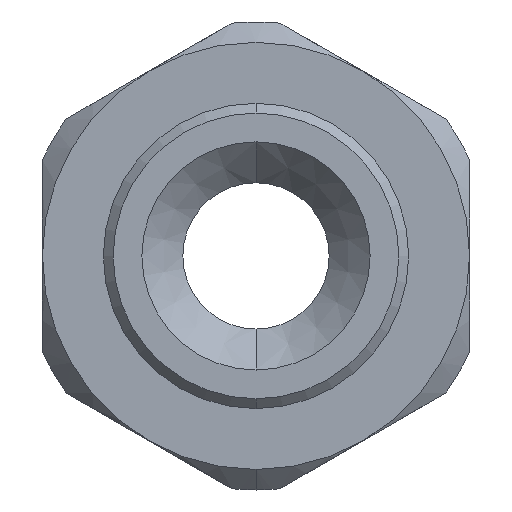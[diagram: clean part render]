
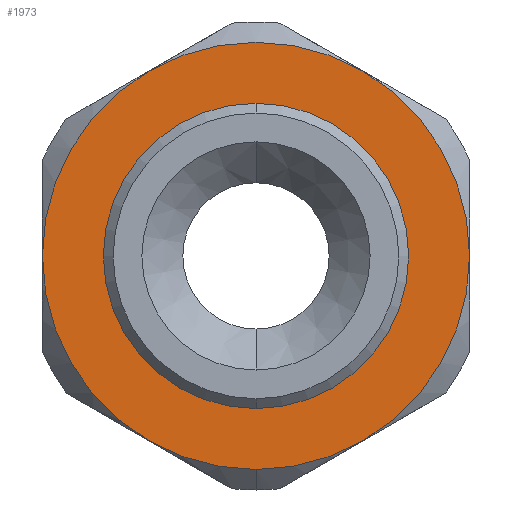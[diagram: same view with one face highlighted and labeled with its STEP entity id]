
A CAD part, front view. The second image highlights one B-rep face of the part: STEP entity #1973.
In plain terms, the highlighted planar face has unit normal (0, -1, 0).
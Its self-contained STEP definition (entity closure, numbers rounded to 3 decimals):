
#122 = VERTEX_POINT ( 'NONE', #1041 ) ;
#178 = VERTEX_POINT ( 'NONE', #1877 ) ;
#180 = VERTEX_POINT ( 'NONE', #1875 ) ;
#182 = VERTEX_POINT ( 'NONE', #1873 ) ;
#216 = VERTEX_POINT ( 'NONE', #1850 ) ;
#230 = VERTEX_POINT ( 'NONE', #1845 ) ;
#248 = VERTEX_POINT ( 'NONE', #1832 ) ;
#265 = VERTEX_POINT ( 'NONE', #1819 ) ;
#316 = VERTEX_POINT ( 'NONE', #1801 ) ;
#444 = AXIS2_PLACEMENT_3D ( 'NONE', #2412, #2363, #2389 ) ;
#445 = AXIS2_PLACEMENT_3D ( 'NONE', #2405, #2441, #2371 ) ;
#448 = AXIS2_PLACEMENT_3D ( 'NONE', #2324, #2384, #2396 ) ;
#462 = AXIS2_PLACEMENT_3D ( 'NONE', #789, #782, #781 ) ;
#471 = AXIS2_PLACEMENT_3D ( 'NONE', #860, #856, #855 ) ;
#472 = AXIS2_PLACEMENT_3D ( 'NONE', #854, #850, #849 ) ;
#479 = AXIS2_PLACEMENT_3D ( 'NONE', #869, #865, #864 ) ;
#544 = AXIS2_PLACEMENT_3D ( 'NONE', #1276, #1275, #1274 ) ;
#547 = AXIS2_PLACEMENT_3D ( 'NONE', #1342, #1335, #1334 ) ;
#618 = AXIS2_PLACEMENT_3D ( 'NONE', #1562, #1561, #1560 ) ;
#647 = FACE_BOUND ( 'NONE', #735, .T. ) ;
#649 = FACE_OUTER_BOUND ( 'NONE', #733, .T. ) ;
#733 = EDGE_LOOP ( 'NONE', ( #977, #981, #978, #979, #980, #984, #982 ) ) ;
#735 = EDGE_LOOP ( 'NONE', ( #975, #976 ) ) ;
#781 = DIRECTION ( 'NONE',  ( 0., 0., -1. ) ) ;
#782 = DIRECTION ( 'NONE',  ( 0., -1., 0. ) ) ;
#789 = CARTESIAN_POINT ( 'NONE',  ( 0., 1., 0. ) ) ;
#849 = DIRECTION ( 'NONE',  ( 0., 0., -1. ) ) ;
#850 = DIRECTION ( 'NONE',  ( 0., -1., 0. ) ) ;
#854 = CARTESIAN_POINT ( 'NONE',  ( 0., 1., 0. ) ) ;
#855 = DIRECTION ( 'NONE',  ( 0., 0., -1. ) ) ;
#856 = DIRECTION ( 'NONE',  ( 0., -1., 0. ) ) ;
#860 = CARTESIAN_POINT ( 'NONE',  ( 0., 1., 0. ) ) ;
#864 = DIRECTION ( 'NONE',  ( 0., 0., -1. ) ) ;
#865 = DIRECTION ( 'NONE',  ( 0., -1., 0. ) ) ;
#869 = CARTESIAN_POINT ( 'NONE',  ( 0., 1., 0. ) ) ;
#975 = ORIENTED_EDGE ( 'NONE', *, *, #2046, .F. ) ;
#976 = ORIENTED_EDGE ( 'NONE', *, *, #2193, .F. ) ;
#977 = ORIENTED_EDGE ( 'NONE', *, *, #2191, .T. ) ;
#978 = ORIENTED_EDGE ( 'NONE', *, *, #2167, .T. ) ;
#979 = ORIENTED_EDGE ( 'NONE', *, *, #2178, .T. ) ;
#980 = ORIENTED_EDGE ( 'NONE', *, *, #2169, .T. ) ;
#981 = ORIENTED_EDGE ( 'NONE', *, *, #2194, .T. ) ;
#982 = ORIENTED_EDGE ( 'NONE', *, *, #2164, .T. ) ;
#984 = ORIENTED_EDGE ( 'NONE', *, *, #2058, .T. ) ;
#1041 = CARTESIAN_POINT ( 'NONE',  ( 0., 1., -10.95 ) ) ;
#1274 = DIRECTION ( 'NONE',  ( 0., 0., -1. ) ) ;
#1275 = DIRECTION ( 'NONE',  ( 0., -1., 0. ) ) ;
#1276 = CARTESIAN_POINT ( 'NONE',  ( 0., 1., 0. ) ) ;
#1334 = DIRECTION ( 'NONE',  ( 0., 0., -1. ) ) ;
#1335 = DIRECTION ( 'NONE',  ( 0., -1., 0. ) ) ;
#1342 = CARTESIAN_POINT ( 'NONE',  ( 0., 1., 0. ) ) ;
#1560 = DIRECTION ( 'NONE',  ( 0., 0., 1. ) ) ;
#1561 = DIRECTION ( 'NONE',  ( 0., 1., 0. ) ) ;
#1562 = CARTESIAN_POINT ( 'NONE',  ( -12., 1., 0. ) ) ;
#1563 = PLANE ( 'NONE',  #618 ) ;
#1801 = CARTESIAN_POINT ( 'NONE',  ( 5.475, 1., 9.483 ) ) ;
#1819 = CARTESIAN_POINT ( 'NONE',  ( 5.475, 1., -9.483 ) ) ;
#1832 = CARTESIAN_POINT ( 'NONE',  ( -5.475, 1., 9.483 ) ) ;
#1845 = CARTESIAN_POINT ( 'NONE',  ( -5.475, 1., -9.483 ) ) ;
#1850 = CARTESIAN_POINT ( 'NONE',  ( 10.95, 1., 0. ) ) ;
#1873 = CARTESIAN_POINT ( 'NONE',  ( 0., 1., 7.825 ) ) ;
#1875 = CARTESIAN_POINT ( 'NONE',  ( 0., 1., -7.825 ) ) ;
#1877 = CARTESIAN_POINT ( 'NONE',  ( -10.95, 1., 0. ) ) ;
#1973 = ADVANCED_FACE ( 'NONE', ( #647, #649 ), #1563, .F. ) ;
#2046 = EDGE_CURVE ( 'NONE', #180, #182, #2112, .T. ) ;
#2058 = EDGE_CURVE ( 'NONE', #122, #265, #2114, .T. ) ;
#2103 = CIRCLE ( 'NONE', #479, 10.95 ) ;
#2112 = CIRCLE ( 'NONE', #547, 7.825 ) ;
#2114 = CIRCLE ( 'NONE', #544, 10.95 ) ;
#2127 = CIRCLE ( 'NONE', #462, 10.95 ) ;
#2135 = CIRCLE ( 'NONE', #471, 10.95 ) ;
#2143 = CIRCLE ( 'NONE', #472, 10.95 ) ;
#2164 = EDGE_CURVE ( 'NONE', #265, #216, #2103, .T. ) ;
#2167 = EDGE_CURVE ( 'NONE', #248, #178, #2135, .T. ) ;
#2169 = EDGE_CURVE ( 'NONE', #230, #122, #2143, .T. ) ;
#2178 = EDGE_CURVE ( 'NONE', #178, #230, #2127, .T. ) ;
#2191 = EDGE_CURVE ( 'NONE', #216, #316, #2272, .T. ) ;
#2193 = EDGE_CURVE ( 'NONE', #182, #180, #2264, .T. ) ;
#2194 = EDGE_CURVE ( 'NONE', #316, #248, #2266, .T. ) ;
#2264 = CIRCLE ( 'NONE', #444, 7.825 ) ;
#2266 = CIRCLE ( 'NONE', #445, 10.95 ) ;
#2272 = CIRCLE ( 'NONE', #448, 10.95 ) ;
#2324 = CARTESIAN_POINT ( 'NONE',  ( 0., 1., 0. ) ) ;
#2363 = DIRECTION ( 'NONE',  ( 0., -1., 0. ) ) ;
#2371 = DIRECTION ( 'NONE',  ( 0., 0., -1. ) ) ;
#2384 = DIRECTION ( 'NONE',  ( 0., -1., 0. ) ) ;
#2389 = DIRECTION ( 'NONE',  ( 0., 0., -1. ) ) ;
#2396 = DIRECTION ( 'NONE',  ( 0., 0., -1. ) ) ;
#2405 = CARTESIAN_POINT ( 'NONE',  ( 0., 1., 0. ) ) ;
#2412 = CARTESIAN_POINT ( 'NONE',  ( 0., 1., 0. ) ) ;
#2441 = DIRECTION ( 'NONE',  ( 0., -1., 0. ) ) ;
